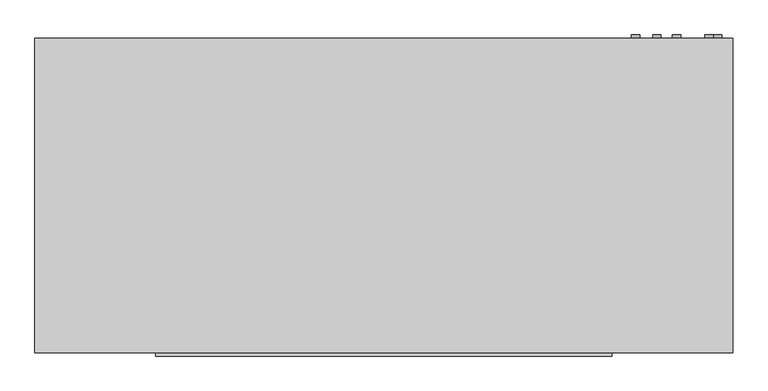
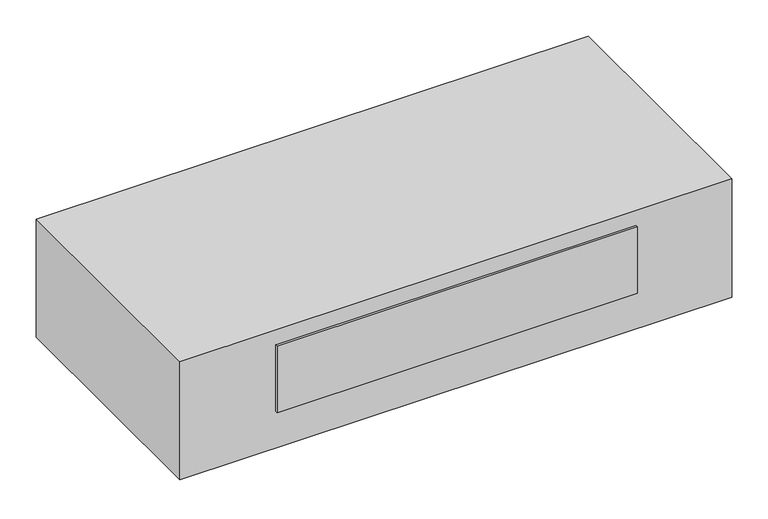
"""IFC4 building model written with IfcOpenShell, lengths in millimetres: proxy geometry, Exposed_Horizontal_Fan_Coil_Unit_-_42CGB_-_CARRIER_-_4-Pipe_FS-BR_RH_2022 : Size 06 - 277v/60Hz/1Ph - 4/1 Coil."""

from ifc_helpers import new_model, si_unit, point, frame, frame_2d, origin, place, context, project, spatial, polyline, circle_curve, trimmed, segment, composite_curve, outline, extrude, source, transform, mapped, element, save


def mechanical_equipment_794acc92(model_context):
    return source(origin(), model_context, "Body", "SweptSolid", [
        extrude(outline(composite_curve([segment(trimmed(circle_curve(frame_2d((-85.725, 796.925)), 7.9375), [point((-85.725, 804.8625))], [point((-85.725, 788.9875))], False, "CARTESIAN"), True, "CONTINUOUS"), segment(trimmed(circle_curve(frame_2d((-85.725, 796.925)), 7.9375), [point((-85.725, 788.9875))], [point((-85.725, 804.8625))], False, "CARTESIAN"), True, "CONTINUOUS")], self_intersect=False)), frame((0.0, 65.0875, 0.0), z_axis=(0.0, 1.0, 0.0), x_axis=(0.0, 0.0, 1.0)), (0.0, 0.0, 1.0), 6.35),
        extrude(outline(composite_curve([segment(trimmed(circle_curve(frame_2d((-44.45, 717.55)), 7.9375), [point((-44.45, 725.4875))], [point((-44.45, 709.6125))], False, "CARTESIAN"), True, "CONTINUOUS"), segment(trimmed(circle_curve(frame_2d((-44.45, 717.55)), 7.9375), [point((-44.45, 709.6125))], [point((-44.45, 725.4875))], False, "CARTESIAN"), True, "CONTINUOUS")], self_intersect=False)), frame((0.0, 65.0875, 0.0), z_axis=(0.0, 1.0, 0.0), x_axis=(0.0, 0.0, 1.0)), (0.0, 0.0, 1.0), 6.35),
        extrude(outline(composite_curve([segment(trimmed(circle_curve(frame_2d((-95.25, 679.45)), 7.9375), [point((-95.25, 687.3875))], [point((-95.25, 671.5125))], False, "CARTESIAN"), True, "CONTINUOUS"), segment(trimmed(circle_curve(frame_2d((-95.25, 679.45)), 7.9375), [point((-95.25, 671.5125))], [point((-95.25, 687.3875))], False, "CARTESIAN"), True, "CONTINUOUS")], self_intersect=False)), frame((0.0, 65.0875, 0.0), z_axis=(0.0, 1.0, 0.0), x_axis=(0.0, 0.0, 1.0)), (0.0, 0.0, 1.0), 6.35),
        extrude(outline(composite_curve([segment(trimmed(circle_curve(frame_2d((-60.325, 638.175)), 7.9375), [point((-60.325, 646.1125))], [point((-60.325, 630.2375))], False, "CARTESIAN"), True, "CONTINUOUS"), segment(trimmed(circle_curve(frame_2d((-60.325, 638.175)), 7.9375), [point((-60.325, 630.2375))], [point((-60.325, 646.1125))], False, "CARTESIAN"), True, "CONTINUOUS")], self_intersect=False)), frame((0.0, 65.0875, 0.0), z_axis=(0.0, 1.0, 0.0), x_axis=(0.0, 0.0, 1.0)), (0.0, 0.0, 1.0), 6.35),
        extrude(outline(composite_curve([segment(trimmed(circle_curve(frame_2d((-260.35, 781.05)), 9.525), [point((-260.35, 790.575))], [point((-260.35, 771.525))], False, "CARTESIAN"), True, "CONTINUOUS"), segment(trimmed(circle_curve(frame_2d((-260.35, 781.05)), 9.525), [point((-260.35, 771.525))], [point((-260.35, 790.575))], False, "CARTESIAN"), True, "CONTINUOUS")], self_intersect=False)), frame((0.0, 65.0875, 0.0), z_axis=(0.0, 1.0, 0.0), x_axis=(0.0, 0.0, 1.0)), (0.0, 0.0, 1.0), 6.35),
        extrude(outline(polyline([(-520.7, 65.0875), (825.5, 65.0875), (825.5, -541.3375), (-520.7, -541.3375), (-520.7, 65.0875)])), frame((0.0, 0.0, -304.8), z_axis=(0.0, 0.0, 1.0), x_axis=(1.0, 0.0, 0.0)), (0.0, 0.0, 1.0), 304.8),
        extrude(outline(polyline([(592.1375, -547.6875), (-287.3375, -547.6875), (-287.3375, -541.3375), (592.1375, -541.3375), (592.1375, -547.6875)])), frame((0.0, 0.0, -209.55), z_axis=(0.0, 0.0, 1.0), x_axis=(1.0, 0.0, 0.0)), (0.0, 0.0, 1.0), 171.45),
        extrude(outline(polyline([(622.3, -11.1125), (622.3, -265.1125), (-317.5, -265.1125), (-317.5, -11.1125), (622.3, -11.1125)])), frame((0.0, 0.0, -311.15), z_axis=(0.0, 0.0, 1.0), x_axis=(1.0, 0.0, 0.0)), (0.0, 0.0, 1.0), 6.35),
    ])


if __name__ == "__main__":
    model = new_model("IFC4")
    model_context = context("Model", 3, world=origin())
    ifc_project = project(units=[si_unit("LENGTHUNIT", "METRE", prefix="MILLI")], contexts=[model_context])
    site = spatial("IfcSite", under=ifc_project)
    building = spatial("IfcBuilding", under=site)
    placement = place(None, origin())
    mechanical_equipment_shape = mechanical_equipment_794acc92(model_context)
    element("IfcBuildingElementProxy", 1, Name="Exposed_Horizontal_Fan_Coil_Unit_-_42CGB_-_CARRIER_-_4-Pipe_FS-BR_RH_2022 : Size 06 - 277v/60Hz/1Ph - 4/1 Coil", ObjectType="Exposed_Horizontal_Fan_Coil_Unit_-_42CGB_-_CARRIER_-_4-Pipe_FS-BR_RH_2022 : Size 06 - 277v/60Hz/1Ph - 4/1 Coil", at=placement, inside=building, context=model_context, shape_type="MappedRepresentation", body=[
        mapped(mechanical_equipment_shape, transform((0.0, 0.0, 0.0), x_axis=(1.0, 0.0, 0.0), y_axis=(0.0, 1.0, 0.0), z_axis=(0.0, 0.0, 1.0))),
    ])
    save(model, "model.ifc")
